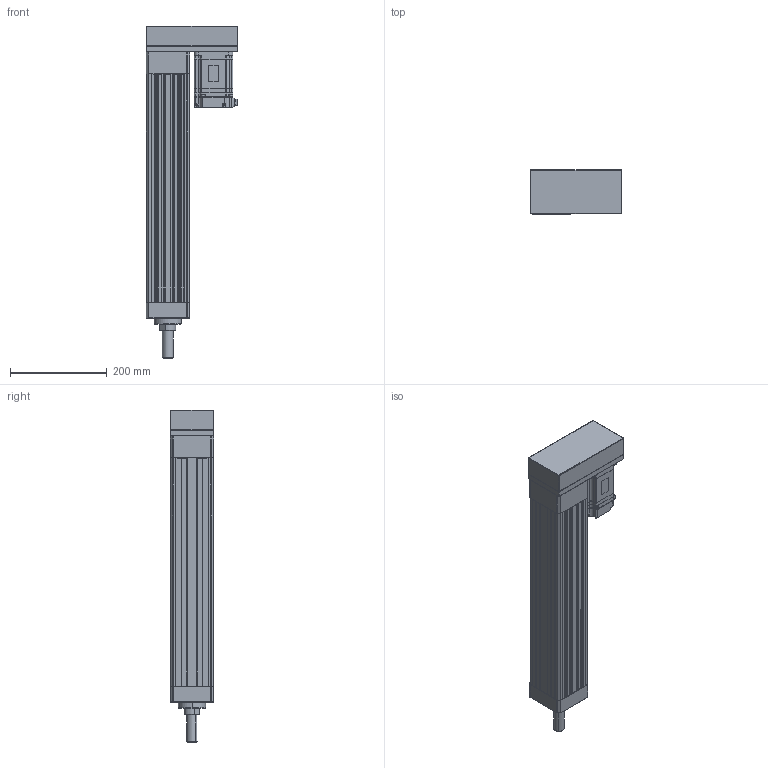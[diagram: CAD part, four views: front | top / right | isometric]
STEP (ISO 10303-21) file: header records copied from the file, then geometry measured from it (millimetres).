
FILE_DESCRIPTION (( 'STEP AP203' ), '1' );
FILE_NAME ('ANS090R-P3550-05(10)(20)-W75-M.STEP', '2019-03-02T10:20:26', ( 'user' ), ( '' ), 'SwSTEP 2.0', 'SolidWorks 2013', '' );
FILE_SCHEMA (( 'CONFIG_CONTROL_DESIGN' ));
Length unit declared in the file: millimetre
Products named in the file (4): ANS090R P350 VER2; SGMJV_08A_A21; ANS090 ROD ST350-M; ANS090R-P3550-05(10)(20)-W75-M
Assembly tree (3 placements, depth 2):
  ANS090R-P3550-05(10)(20)-W75-M
    ANS090R P350 VER2
    SGMJV_08A_A21
    ANS090 ROD ST350-M
Bounding box: 190 x 90 x 686 mm (x, y, z)
Volume: 3356675.7 mm3; surface area: 639208.7 mm2
Topology: 3 solids, 3 shells, 1078 faces, 2857 edges, 1838 vertices
Faces by surface type: plane 646, cylinder 346, cone 74, bspline 8, sphere 4
Entity records: 33969 total; most frequent: CARTESIAN_POINT 6617, ORIENTED_EDGE 5674, DIRECTION 5555, EDGE_CURVE 2837, VECTOR 1987, LINE 1987, VERTEX_POINT 1838, AXIS2_PLACEMENT_3D 1784
